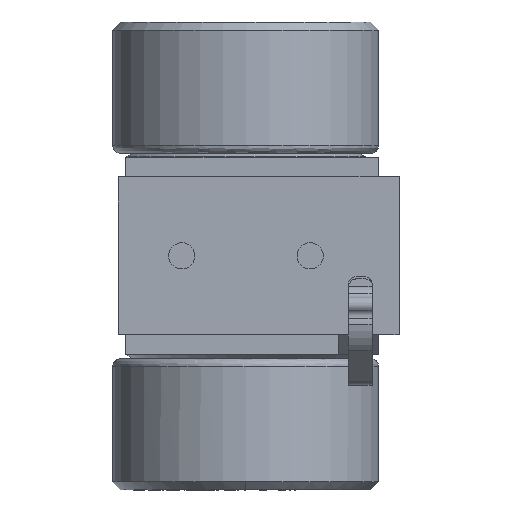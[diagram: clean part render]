
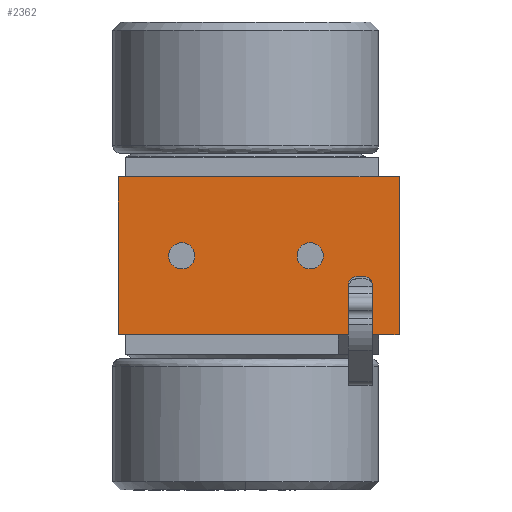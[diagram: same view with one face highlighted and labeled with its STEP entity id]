
A CAD part, front view. The second image highlights one B-rep face of the part: STEP entity #2362.
In plain terms, the highlighted planar face has unit normal (0, -1, 0).
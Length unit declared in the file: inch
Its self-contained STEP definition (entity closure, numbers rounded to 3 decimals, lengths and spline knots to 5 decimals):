
#2362 = ADVANCED_FACE ( 'NONE', ( #4106, #4108, #4098 ), #13279, .T. ) ;
#4098 = FACE_BOUND ( 'NONE', #33960, .T. ) ;
#4106 = FACE_OUTER_BOUND ( 'NONE', #33959, .T. ) ;
#4108 = FACE_BOUND ( 'NONE', #33957, .T. ) ;
#5305 = VERTEX_POINT ( 'NONE', #7775 ) ;
#5315 = VERTEX_POINT ( 'NONE', #7785 ) ;
#5316 = VERTEX_POINT ( 'NONE', #7786 ) ;
#5319 = VERTEX_POINT ( 'NONE', #7789 ) ;
#5401 = VERTEX_POINT ( 'NONE', #7871 ) ;
#5402 = VERTEX_POINT ( 'NONE', #7872 ) ;
#5409 = VERTEX_POINT ( 'NONE', #7879 ) ;
#5410 = VERTEX_POINT ( 'NONE', #7880 ) ;
#5412 = VERTEX_POINT ( 'NONE', #7882 ) ;
#5413 = VERTEX_POINT ( 'NONE', #7883 ) ;
#5415 = VERTEX_POINT ( 'NONE', #7884 ) ;
#5416 = VERTEX_POINT ( 'NONE', #7885 ) ;
#5417 = VERTEX_POINT ( 'NONE', #7886 ) ;
#5418 = VERTEX_POINT ( 'NONE', #7887 ) ;
#7775 = CARTESIAN_POINT ( 'NONE',  ( 1.004, -2.493, -0.203 ) ) ;
#7785 = CARTESIAN_POINT ( 'NONE',  ( -0.996, -2.493, 0.203 ) ) ;
#7786 = CARTESIAN_POINT ( 'NONE',  ( -0.996, -2.493, -0.203 ) ) ;
#7789 = CARTESIAN_POINT ( 'NONE',  ( 1.004, -2.493, 0.203 ) ) ;
#7871 = CARTESIAN_POINT ( 'NONE',  ( 1.721, -2.493, -0.324 ) ) ;
#7872 = CARTESIAN_POINT ( 'NONE',  ( 1.596, -2.493, -0.449 ) ) ;
#7879 = CARTESIAN_POINT ( 'NONE',  ( -1.986, -2.493, 1.23 ) ) ;
#7880 = CARTESIAN_POINT ( 'NONE',  ( -1.986, -2.493, -1.23 ) ) ;
#7882 = CARTESIAN_POINT ( 'NONE',  ( 1.972, -2.493, -1.23 ) ) ;
#7883 = CARTESIAN_POINT ( 'NONE',  ( 1.596, -2.493, -1.23 ) ) ;
#7884 = CARTESIAN_POINT ( 'NONE',  ( 1.847, -2.493, -0.324 ) ) ;
#7885 = CARTESIAN_POINT ( 'NONE',  ( 1.972, -2.493, -0.449 ) ) ;
#7886 = CARTESIAN_POINT ( 'NONE',  ( 2.389, -2.493, 1.23 ) ) ;
#7887 = CARTESIAN_POINT ( 'NONE',  ( 2.389, -2.493, -1.23 ) ) ;
#8123 = CIRCLE ( 'NONE', #18075, 0.203 ) ;
#8131 = CIRCLE ( 'NONE', #18074, 0.203 ) ;
#8134 = LINE ( 'NONE', #10299, #8138 ) ;
#8137 = LINE ( 'NONE', #10304, #8144 ) ;
#8138 = VECTOR ( 'NONE', #10305, 39.37008 ) ;
#8141 = LINE ( 'NONE', #10306, #8148 ) ;
#8144 = VECTOR ( 'NONE', #10310, 39.37008 ) ;
#8145 = CIRCLE ( 'NONE', #18076, 0.125 ) ;
#8148 = VECTOR ( 'NONE', #10314, 39.37008 ) ;
#8149 = LINE ( 'NONE', #10318, #8155 ) ;
#8152 = CIRCLE ( 'NONE', #18077, 0.125 ) ;
#8155 = VECTOR ( 'NONE', #10323, 39.37008 ) ;
#8156 = LINE ( 'NONE', #10328, #8162 ) ;
#8159 = LINE ( 'NONE', #10327, #8166 ) ;
#8162 = VECTOR ( 'NONE', #10333, 39.37008 ) ;
#8163 = LINE ( 'NONE', #10332, #8170 ) ;
#8166 = VECTOR ( 'NONE', #10337, 39.37008 ) ;
#8169 = LINE ( 'NONE', #10342, #8172 ) ;
#8170 = VECTOR ( 'NONE', #10341, 39.37008 ) ;
#8172 = VECTOR ( 'NONE', #10343, 39.37008 ) ;
#10296 = CARTESIAN_POINT ( 'NONE',  ( 1.004, -2.493, 0. ) ) ;
#10297 = DIRECTION ( 'NONE',  ( 0., 1., 0. ) ) ;
#10298 = DIRECTION ( 'NONE',  ( 0., 0., 1. ) ) ;
#10299 = CARTESIAN_POINT ( 'NONE',  ( -1.986, -2.493, 1.23 ) ) ;
#10301 = CARTESIAN_POINT ( 'NONE',  ( -0.996, -2.493, 0. ) ) ;
#10302 = DIRECTION ( 'NONE',  ( 0., 1., 0. ) ) ;
#10303 = DIRECTION ( 'NONE',  ( 0., 0., 1. ) ) ;
#10304 = CARTESIAN_POINT ( 'NONE',  ( -2.361, -2.493, -1.23 ) ) ;
#10305 = DIRECTION ( 'NONE',  ( 0., 0., -1. ) ) ;
#10306 = CARTESIAN_POINT ( 'NONE',  ( 1.596, -2.493, 1.23 ) ) ;
#10310 = DIRECTION ( 'NONE',  ( 1., 0., 0. ) ) ;
#10314 = DIRECTION ( 'NONE',  ( 0., 0., 1. ) ) ;
#10318 = CARTESIAN_POINT ( 'NONE',  ( -2.361, -2.493, -0.324 ) ) ;
#10319 = CARTESIAN_POINT ( 'NONE',  ( 1.721, -2.493, -0.449 ) ) ;
#10320 = DIRECTION ( 'NONE',  ( 0., 1., 0. ) ) ;
#10321 = DIRECTION ( 'NONE',  ( 0., 0., 1. ) ) ;
#10323 = DIRECTION ( 'NONE',  ( 1., 0., 0. ) ) ;
#10327 = CARTESIAN_POINT ( 'NONE',  ( -2.361, -2.493, -1.23 ) ) ;
#10328 = CARTESIAN_POINT ( 'NONE',  ( 1.972, -2.493, 1.23 ) ) ;
#10329 = CARTESIAN_POINT ( 'NONE',  ( 1.847, -2.493, -0.449 ) ) ;
#10330 = DIRECTION ( 'NONE',  ( 0., 1., 0. ) ) ;
#10331 = DIRECTION ( 'NONE',  ( 0., 0., 1. ) ) ;
#10332 = CARTESIAN_POINT ( 'NONE',  ( 2.389, -2.493, 1.23 ) ) ;
#10333 = DIRECTION ( 'NONE',  ( 0., 0., -1. ) ) ;
#10337 = DIRECTION ( 'NONE',  ( 1., 0., 0. ) ) ;
#10341 = DIRECTION ( 'NONE',  ( 0., 0., 1. ) ) ;
#10342 = CARTESIAN_POINT ( 'NONE',  ( -2.361, -2.493, 1.23 ) ) ;
#10343 = DIRECTION ( 'NONE',  ( -1., 0., 0. ) ) ;
#13278 = DIRECTION ( 'NONE',  ( 0., 0., -1. ) ) ;
#13279 = PLANE ( 'NONE',  #25286 ) ;
#13280 = CARTESIAN_POINT ( 'NONE',  ( -2.361, -2.493, 1.23 ) ) ;
#13284 = DIRECTION ( 'NONE',  ( 0., -1., 0. ) ) ;
#18074 = AXIS2_PLACEMENT_3D ( 'NONE', #10296, #10297, #10298 ) ;
#18075 = AXIS2_PLACEMENT_3D ( 'NONE', #10301, #10302, #10303 ) ;
#18076 = AXIS2_PLACEMENT_3D ( 'NONE', #10319, #10320, #10321 ) ;
#18077 = AXIS2_PLACEMENT_3D ( 'NONE', #10329, #10330, #10331 ) ;
#18150 = AXIS2_PLACEMENT_3D ( 'NONE', #30348, #30349, #30350 ) ;
#18152 = AXIS2_PLACEMENT_3D ( 'NONE', #30356, #30357, #30358 ) ;
#25286 = AXIS2_PLACEMENT_3D ( 'NONE', #13280, #13284, #13278 ) ;
#25622 = CIRCLE ( 'NONE', #18150, 0.203 ) ;
#25676 = CIRCLE ( 'NONE', #18152, 0.203 ) ;
#30348 = CARTESIAN_POINT ( 'NONE',  ( -0.996, -2.493, 0. ) ) ;
#30349 = DIRECTION ( 'NONE',  ( 0., 1., 0. ) ) ;
#30350 = DIRECTION ( 'NONE',  ( 0., 0., 1. ) ) ;
#30356 = CARTESIAN_POINT ( 'NONE',  ( 1.004, -2.493, 0. ) ) ;
#30357 = DIRECTION ( 'NONE',  ( 0., 1., 0. ) ) ;
#30358 = DIRECTION ( 'NONE',  ( 0., 0., 1. ) ) ;
#32785 = EDGE_CURVE ( 'NONE', #5319, #5305, #8131, .T. ) ;
#32786 = EDGE_CURVE ( 'NONE', #5315, #5316, #8123, .T. ) ;
#32788 = EDGE_CURVE ( 'NONE', #5409, #5410, #8134, .T. ) ;
#32791 = EDGE_CURVE ( 'NONE', #5410, #5413, #8137, .T. ) ;
#32793 = EDGE_CURVE ( 'NONE', #5413, #5402, #8141, .T. ) ;
#32795 = EDGE_CURVE ( 'NONE', #5402, #5401, #8145, .T. ) ;
#32797 = EDGE_CURVE ( 'NONE', #5401, #5415, #8149, .T. ) ;
#32799 = EDGE_CURVE ( 'NONE', #5415, #5416, #8152, .T. ) ;
#32801 = EDGE_CURVE ( 'NONE', #5416, #5412, #8156, .T. ) ;
#32803 = EDGE_CURVE ( 'NONE', #5412, #5418, #8159, .T. ) ;
#32805 = EDGE_CURVE ( 'NONE', #5418, #5417, #8163, .T. ) ;
#32806 = EDGE_CURVE ( 'NONE', #5417, #5409, #8169, .T. ) ;
#33489 = ORIENTED_EDGE ( 'NONE', *, *, #32805, .T. ) ;
#33490 = ORIENTED_EDGE ( 'NONE', *, *, #32806, .T. ) ;
#33491 = ORIENTED_EDGE ( 'NONE', *, *, #32788, .T. ) ;
#33492 = ORIENTED_EDGE ( 'NONE', *, *, #32791, .T. ) ;
#33493 = ORIENTED_EDGE ( 'NONE', *, *, #32793, .T. ) ;
#33494 = ORIENTED_EDGE ( 'NONE', *, *, #32795, .T. ) ;
#33495 = ORIENTED_EDGE ( 'NONE', *, *, #32797, .T. ) ;
#33496 = ORIENTED_EDGE ( 'NONE', *, *, #32799, .T. ) ;
#33497 = ORIENTED_EDGE ( 'NONE', *, *, #32801, .T. ) ;
#33498 = ORIENTED_EDGE ( 'NONE', *, *, #32803, .T. ) ;
#33499 = ORIENTED_EDGE ( 'NONE', *, *, #32786, .T. ) ;
#33500 = ORIENTED_EDGE ( 'NONE', *, *, #36538, .T. ) ;
#33501 = ORIENTED_EDGE ( 'NONE', *, *, #32785, .T. ) ;
#33502 = ORIENTED_EDGE ( 'NONE', *, *, #36541, .T. ) ;
#33957 = EDGE_LOOP ( 'NONE', ( #33499, #33500 ) ) ;
#33959 = EDGE_LOOP ( 'NONE', ( #33489, #33490, #33491, #33492, #33493, #33494, #33495, #33496, #33497, #33498 ) ) ;
#33960 = EDGE_LOOP ( 'NONE', ( #33501, #33502 ) ) ;
#36538 = EDGE_CURVE ( 'NONE', #5316, #5315, #25622, .T. ) ;
#36541 = EDGE_CURVE ( 'NONE', #5305, #5319, #25676, .T. ) ;
